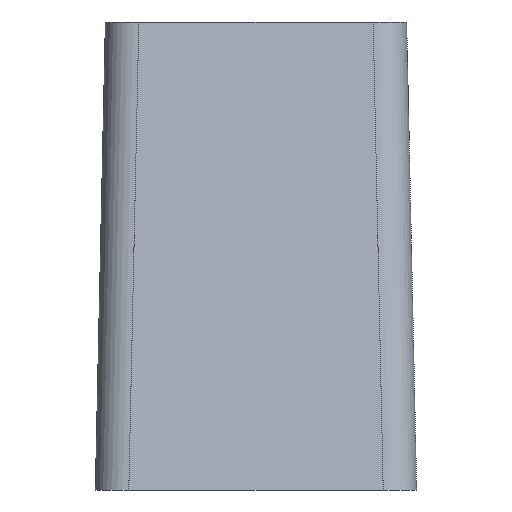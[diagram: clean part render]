
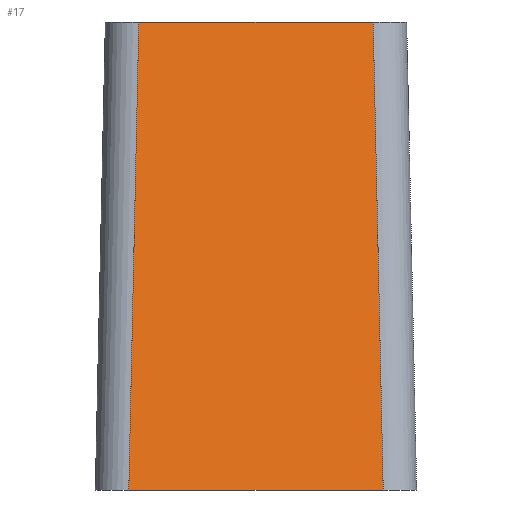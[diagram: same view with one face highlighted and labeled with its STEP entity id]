
A CAD part, left-side view. The second image highlights one B-rep face of the part: STEP entity #17.
In plain terms, the highlighted free-form (B-spline) face has degree [1, 1] with [2, 2] control points.
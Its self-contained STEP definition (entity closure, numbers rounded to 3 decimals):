
#17 = ADVANCED_FACE('',(#18),#32,.T.);
#18 = FACE_BOUND('',#19,.T.);
#19 = EDGE_LOOP('',(#20,#55,#94,#121));
#20 = ORIENTED_EDGE('',*,*,#21,.F.);
#21 = EDGE_CURVE('',#22,#24,#26,.T.);
#22 = VERTEX_POINT('',#23);
#23 = CARTESIAN_POINT('',(-30.,-35.6,-22.));
#24 = VERTEX_POINT('',#25);
#25 = CARTESIAN_POINT('',(-30.,-31.8,-22.));
#26 = SURFACE_CURVE('',#27,(#31,#43),.PCURVE_S1.);
#27 = LINE('',#28,#29);
#28 = CARTESIAN_POINT('',(-30.,-33.7,-22.));
#29 = VECTOR('',#30,1.);
#30 = DIRECTION('',(0.,1.,0.));
#31 = PCURVE('',#32,#37);
#32 = B_SPLINE_SURFACE_WITH_KNOTS('',1,1,(
    (#33,#34)
    ,(#35,#36
  )),.UNSPECIFIED.,.F.,.F.,.F.,(2,2),(2,2),(-1.9,1.9),(0.,1.),
  .PIECEWISE_BEZIER_KNOTS.);
#33 = CARTESIAN_POINT('',(-30.,-31.8,-22.));
#34 = CARTESIAN_POINT('',(-28.25,-31.95,-15.01));
#35 = CARTESIAN_POINT('',(-30.,-35.6,-22.));
#36 = CARTESIAN_POINT('',(-28.25,-35.45,-15.01));
#37 = DEFINITIONAL_REPRESENTATION('',(#38),#42);
#38 = LINE('',#39,#40);
#39 = CARTESIAN_POINT('',(0.,0.));
#40 = VECTOR('',#41,1.);
#41 = DIRECTION('',(-1.,0.));
#42 = ( GEOMETRIC_REPRESENTATION_CONTEXT(2) 
PARAMETRIC_REPRESENTATION_CONTEXT() REPRESENTATION_CONTEXT('2D SPACE',''
  ) );
#43 = PCURVE('',#44,#49);
#44 = PLANE('',#45);
#45 = AXIS2_PLACEMENT_3D('',#46,#47,#48);
#46 = CARTESIAN_POINT('',(-29.5,-31.8,-22.));
#47 = DIRECTION('',(0.,0.,1.));
#48 = DIRECTION('',(1.,0.,0.));
#49 = DEFINITIONAL_REPRESENTATION('',(#50),#54);
#50 = LINE('',#51,#52);
#51 = CARTESIAN_POINT('',(-0.5,-1.9));
#52 = VECTOR('',#53,1.);
#53 = DIRECTION('',(0.,1.));
#54 = ( GEOMETRIC_REPRESENTATION_CONTEXT(2) 
PARAMETRIC_REPRESENTATION_CONTEXT() REPRESENTATION_CONTEXT('2D SPACE',''
  ) );
#55 = ORIENTED_EDGE('',*,*,#56,.T.);
#56 = EDGE_CURVE('',#22,#57,#59,.T.);
#57 = VERTEX_POINT('',#58);
#58 = CARTESIAN_POINT('',(-28.25,-35.45,-15.01));
#59 = SURFACE_CURVE('',#60,(#63,#70),.PCURVE_S1.);
#60 = B_SPLINE_CURVE_WITH_KNOTS('',1,(#61,#62),.UNSPECIFIED.,.F.,.F.,(2,
    2),(0.,1.),.PIECEWISE_BEZIER_KNOTS.);
#61 = CARTESIAN_POINT('',(-30.,-35.6,-22.));
#62 = CARTESIAN_POINT('',(-28.25,-35.45,-15.01));
#63 = PCURVE('',#32,#64);
#64 = DEFINITIONAL_REPRESENTATION('',(#65),#69);
#65 = LINE('',#66,#67);
#66 = CARTESIAN_POINT('',(1.9,0.));
#67 = VECTOR('',#68,1.);
#68 = DIRECTION('',(0.,1.));
#69 = ( GEOMETRIC_REPRESENTATION_CONTEXT(2) 
PARAMETRIC_REPRESENTATION_CONTEXT() REPRESENTATION_CONTEXT('2D SPACE',''
  ) );
#70 = PCURVE('',#71,#88);
#71 = B_SPLINE_SURFACE_WITH_KNOTS('',7,1,(
    (#72,#73)
    ,(#74,#75)
    ,(#76,#77)
    ,(#78,#79)
    ,(#80,#81)
    ,(#82,#83)
    ,(#84,#85)
    ,(#86,#87
    )),.UNSPECIFIED.,.F.,.F.,.F.,(8,8),(2,2),(3.142,
    4.712),(0.,1.),.PIECEWISE_BEZIER_KNOTS.);
#72 = CARTESIAN_POINT('',(-30.,-35.6,-22.));
#73 = CARTESIAN_POINT('',(-28.25,-35.45,-15.01));
#74 = CARTESIAN_POINT('',(-30.,-35.712,-22.));
#75 = CARTESIAN_POINT('',(-28.25,-35.562,-15.01));
#76 = CARTESIAN_POINT('',(-29.971,-35.824,-22.));
#77 = CARTESIAN_POINT('',(-28.221,-35.674,-15.01));
#78 = CARTESIAN_POINT('',(-29.912,-35.927,-22.
    ));
#79 = CARTESIAN_POINT('',(-28.162,-35.777,-15.01
    ));
#80 = CARTESIAN_POINT('',(-29.827,-36.012,-22.));
#81 = CARTESIAN_POINT('',(-28.077,-35.862,-15.01));
#82 = CARTESIAN_POINT('',(-29.724,-36.071,
    -22.));
#83 = CARTESIAN_POINT('',(-27.974,-35.921,-15.01));
#84 = CARTESIAN_POINT('',(-29.612,-36.1,-22.));
#85 = CARTESIAN_POINT('',(-27.862,-35.95,-15.01));
#86 = CARTESIAN_POINT('',(-29.5,-36.1,-22.));
#87 = CARTESIAN_POINT('',(-27.75,-35.95,-15.01));
#88 = DEFINITIONAL_REPRESENTATION('',(#89),#93);
#89 = LINE('',#90,#91);
#90 = CARTESIAN_POINT('',(3.142,0.));
#91 = VECTOR('',#92,1.);
#92 = DIRECTION('',(0.,1.));
#93 = ( GEOMETRIC_REPRESENTATION_CONTEXT(2) 
PARAMETRIC_REPRESENTATION_CONTEXT() REPRESENTATION_CONTEXT('2D SPACE',''
  ) );
#94 = ORIENTED_EDGE('',*,*,#95,.T.);
#95 = EDGE_CURVE('',#57,#96,#98,.T.);
#96 = VERTEX_POINT('',#97);
#97 = CARTESIAN_POINT('',(-28.25,-31.95,-15.01));
#98 = SURFACE_CURVE('',#99,(#103,#109),.PCURVE_S1.);
#99 = LINE('',#100,#101);
#100 = CARTESIAN_POINT('',(-28.25,-33.7,-15.01));
#101 = VECTOR('',#102,1.);
#102 = DIRECTION('',(0.,1.,0.));
#103 = PCURVE('',#32,#104);
#104 = DEFINITIONAL_REPRESENTATION('',(#105),#108);
#105 = B_SPLINE_CURVE_WITH_KNOTS('',1,(#106,#107),.UNSPECIFIED.,.F.,.F.,
  (2,2),(-1.75,1.75),.PIECEWISE_BEZIER_KNOTS.);
#106 = CARTESIAN_POINT('',(1.9,1.));
#107 = CARTESIAN_POINT('',(-1.9,1.));
#108 = ( GEOMETRIC_REPRESENTATION_CONTEXT(2) 
PARAMETRIC_REPRESENTATION_CONTEXT() REPRESENTATION_CONTEXT('2D SPACE',''
  ) );
#109 = PCURVE('',#110,#115);
#110 = PLANE('',#111);
#111 = AXIS2_PLACEMENT_3D('',#112,#113,#114);
#112 = CARTESIAN_POINT('',(-27.75,-35.45,-15.01));
#113 = DIRECTION('',(0.,0.,1.));
#114 = DIRECTION('',(1.,0.,0.));
#115 = DEFINITIONAL_REPRESENTATION('',(#116),#120);
#116 = LINE('',#117,#118);
#117 = CARTESIAN_POINT('',(-0.5,1.75));
#118 = VECTOR('',#119,1.);
#119 = DIRECTION('',(0.,1.));
#120 = ( GEOMETRIC_REPRESENTATION_CONTEXT(2) 
PARAMETRIC_REPRESENTATION_CONTEXT() REPRESENTATION_CONTEXT('2D SPACE',''
  ) );
#121 = ORIENTED_EDGE('',*,*,#122,.F.);
#122 = EDGE_CURVE('',#24,#96,#123,.T.);
#123 = SURFACE_CURVE('',#124,(#127,#134),.PCURVE_S1.);
#124 = B_SPLINE_CURVE_WITH_KNOTS('',1,(#125,#126),.UNSPECIFIED.,.F.,.F.,
  (2,2),(0.,1.),.PIECEWISE_BEZIER_KNOTS.);
#125 = CARTESIAN_POINT('',(-30.,-31.8,-22.));
#126 = CARTESIAN_POINT('',(-28.25,-31.95,-15.01));
#127 = PCURVE('',#32,#128);
#128 = DEFINITIONAL_REPRESENTATION('',(#129),#133);
#129 = LINE('',#130,#131);
#130 = CARTESIAN_POINT('',(-1.9,0.));
#131 = VECTOR('',#132,1.);
#132 = DIRECTION('',(0.,1.));
#133 = ( GEOMETRIC_REPRESENTATION_CONTEXT(2) 
PARAMETRIC_REPRESENTATION_CONTEXT() REPRESENTATION_CONTEXT('2D SPACE',''
  ) );
#134 = PCURVE('',#135,#152);
#135 = B_SPLINE_SURFACE_WITH_KNOTS('',7,1,(
    (#136,#137)
    ,(#138,#139)
    ,(#140,#141)
    ,(#142,#143)
    ,(#144,#145)
    ,(#146,#147)
    ,(#148,#149)
    ,(#150,#151
    )),.UNSPECIFIED.,.F.,.F.,.F.,(8,8),(2,2),(1.571,
    3.142),(0.,1.),.PIECEWISE_BEZIER_KNOTS.);
#136 = CARTESIAN_POINT('',(-29.5,-31.3,-22.));
#137 = CARTESIAN_POINT('',(-27.75,-31.45,-15.01));
#138 = CARTESIAN_POINT('',(-29.612,-31.3,-22.));
#139 = CARTESIAN_POINT('',(-27.862,-31.45,-15.01));
#140 = CARTESIAN_POINT('',(-29.724,-31.329,-22.));
#141 = CARTESIAN_POINT('',(-27.974,-31.479,-15.01));
#142 = CARTESIAN_POINT('',(-29.827,-31.388,-22.));
#143 = CARTESIAN_POINT('',(-28.077,-31.538,-15.01));
#144 = CARTESIAN_POINT('',(-29.912,-31.473,
    -22.));
#145 = CARTESIAN_POINT('',(-28.162,-31.623,
    -15.01));
#146 = CARTESIAN_POINT('',(-29.971,-31.576,-22.));
#147 = CARTESIAN_POINT('',(-28.221,-31.726,-15.01));
#148 = CARTESIAN_POINT('',(-30.,-31.688,-22.));
#149 = CARTESIAN_POINT('',(-28.25,-31.838,-15.01));
#150 = CARTESIAN_POINT('',(-30.,-31.8,-22.));
#151 = CARTESIAN_POINT('',(-28.25,-31.95,-15.01));
#152 = DEFINITIONAL_REPRESENTATION('',(#153),#157);
#153 = LINE('',#154,#155);
#154 = CARTESIAN_POINT('',(3.142,0.));
#155 = VECTOR('',#156,1.);
#156 = DIRECTION('',(0.,1.));
#157 = ( GEOMETRIC_REPRESENTATION_CONTEXT(2) 
PARAMETRIC_REPRESENTATION_CONTEXT() REPRESENTATION_CONTEXT('2D SPACE',''
  ) );
